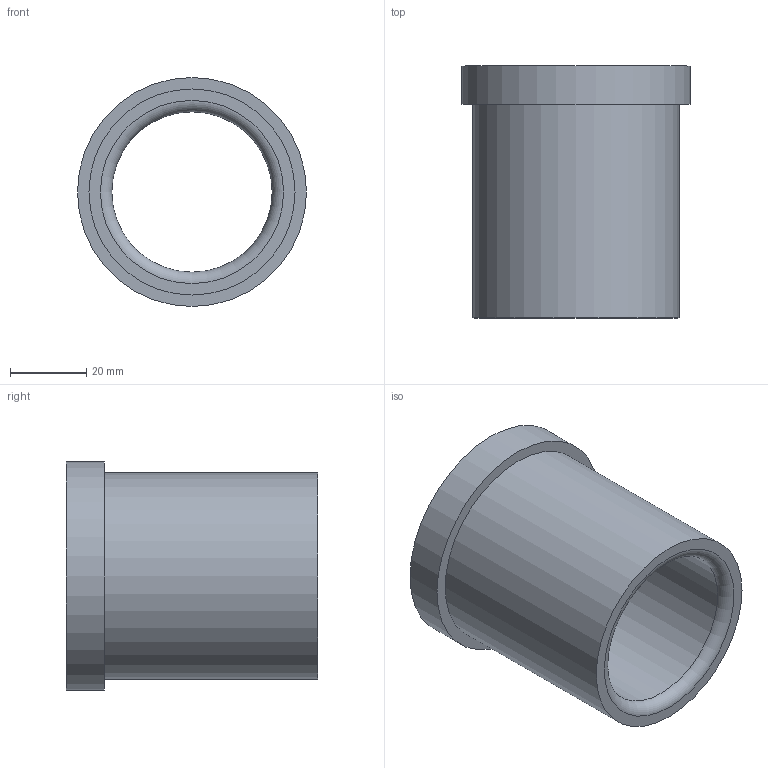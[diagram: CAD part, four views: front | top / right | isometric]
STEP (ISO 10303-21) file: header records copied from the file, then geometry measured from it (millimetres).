
FILE_DESCRIPTION(/* description */ ('STEP AP214'),/* implementation_level */ '2;1');
FILE_NAME(/* name */ '03_12_17865',/* time_stamp */ '2023-06-15T11:35:45+02:00',/* author */ ('License CC BY-ND 4.0'),/* organization */ ('CADENAS'),/* preprocessor_version */ 'ST-DEVELOPER v19.3',/* originating_system */ 'PARTsolutions',/* authorisation */ ' ');
FILE_SCHEMA (('AUTOMOTIVE_DESIGN {1 0 10303 214 3 1 1}'));
Length unit declared in the file: millimetre
Products named in the file (1): VA_Bushing_17865
Bounding box: 60 x 66 x 60 mm (x, y, z)
Volume: 64031.7 mm3; surface area: 22668.3 mm2
Topology: 1 solids, 1 shells, 10 faces, 16 edges, 10 vertices
Faces by surface type: cylinder 4, plane 4, torus 2
Full cylindrical faces by diameter (mm): 42 x1, 42.6 x1, 54 x1, 60 x1
Entity records: 302 total; most frequent: DIRECTION 42, CARTESIAN_POINT 31, AXIS2_PLACEMENT_3D 21, ORIENTED_EDGE 20, EDGE_LOOP 20, FACE_BOUND 20, EDGE_CURVE 10, VERTEX_POINT 10
